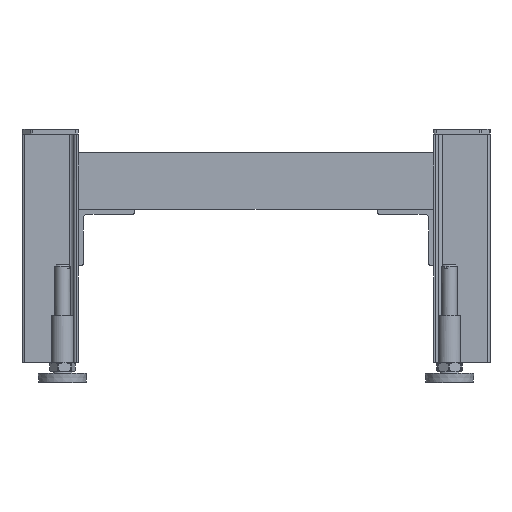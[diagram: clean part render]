
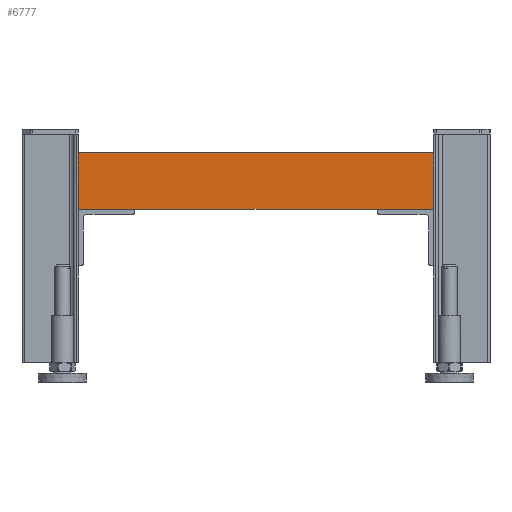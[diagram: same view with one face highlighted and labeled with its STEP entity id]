
A CAD part, front view. The second image highlights one B-rep face of the part: STEP entity #6777.
In plain terms, the highlighted planar face has unit normal (0, -1, 0).
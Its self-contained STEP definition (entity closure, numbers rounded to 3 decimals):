
#720=FACE_OUTER_BOUND('',#1119,.T.);
#1119=EDGE_LOOP('',(#5876,#5877,#5878,#5879,#5880,#5881));
#1741=LINE('',#11362,#2260);
#1773=LINE('',#11437,#2292);
#1913=LINE('',#11868,#2432);
#1928=LINE('',#11907,#2447);
#1929=LINE('',#11909,#2448);
#1930=LINE('',#11910,#2449);
#2260=VECTOR('',#8690,10.);
#2292=VECTOR('',#8760,10.);
#2432=VECTOR('',#9232,10.);
#2447=VECTOR('',#9273,10.);
#2448=VECTOR('',#9276,10.);
#2449=VECTOR('',#9277,10.);
#2916=VERTEX_POINT('',#11341);
#2922=VERTEX_POINT('',#11360);
#2928=VERTEX_POINT('',#11383);
#2946=VERTEX_POINT('',#11436);
#3069=VERTEX_POINT('',#11864);
#3071=VERTEX_POINT('',#11867);
#3758=EDGE_CURVE('',#2922,#2916,#1741,.T.);
#3796=EDGE_CURVE('',#2928,#2946,#1773,.T.);
#4011=EDGE_CURVE('',#3069,#3071,#1913,.T.);
#4032=EDGE_CURVE('',#2916,#2928,#1928,.T.);
#4033=EDGE_CURVE('',#3069,#2922,#1929,.T.);
#4034=EDGE_CURVE('',#2946,#3071,#1930,.T.);
#5876=ORIENTED_EDGE('',*,*,#4033,.T.);
#5877=ORIENTED_EDGE('',*,*,#3758,.T.);
#5878=ORIENTED_EDGE('',*,*,#4032,.T.);
#5879=ORIENTED_EDGE('',*,*,#3796,.T.);
#5880=ORIENTED_EDGE('',*,*,#4034,.T.);
#5881=ORIENTED_EDGE('',*,*,#4011,.F.);
#6204=PLANE('',#7465);
#6777=ADVANCED_FACE('',(#720),#6204,.T.);
#7465=AXIS2_PLACEMENT_3D('',#11908,#9274,#9275);
#8690=DIRECTION('',(1.,0.,0.));
#8760=DIRECTION('',(1.,0.,0.));
#9232=DIRECTION('',(1.,0.,0.));
#9273=DIRECTION('',(1.,0.,0.));
#9274=DIRECTION('center_axis',(0.,-1.,0.));
#9275=DIRECTION('ref_axis',(0.,0.,
-1.));
#9276=DIRECTION('',(0.,0.,-1.));
#9277=DIRECTION('',(0.,0.,1.));
#11341=CARTESIAN_POINT('',(167.,0.,-80.));
#11360=CARTESIAN_POINT('',(107.,0.,-80.));
#11362=CARTESIAN_POINT('',(107.,0.,-80.));
#11383=CARTESIAN_POINT('',(424.,0.,-80.));
#11436=CARTESIAN_POINT('',(484.,0.,-80.));
#11437=CARTESIAN_POINT('',(107.,0.,-80.));
#11864=CARTESIAN_POINT('',(107.,0.,-20.));
#11867=CARTESIAN_POINT('',(484.,0.,-20.));
#11868=CARTESIAN_POINT('',(107.,0.,-20.));
#11907=CARTESIAN_POINT('',(107.,0.,-80.));
#11908=CARTESIAN_POINT('Origin',(107.,0.,-20.));
#11909=CARTESIAN_POINT('',(107.,0.,0.));
#11910=CARTESIAN_POINT('',(484.,0.,-243.));
